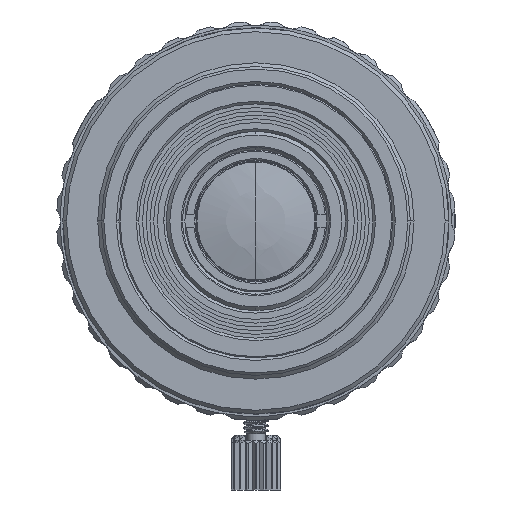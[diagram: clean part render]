
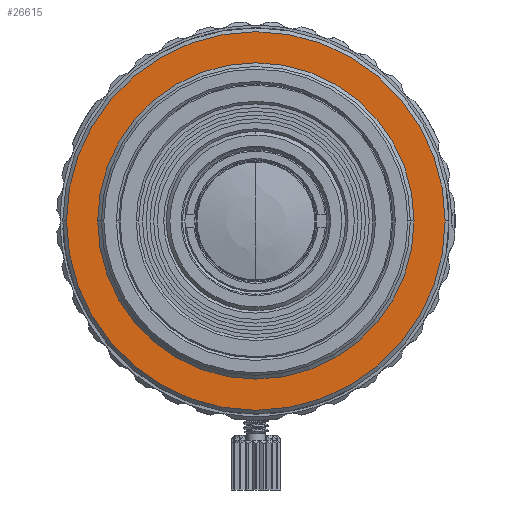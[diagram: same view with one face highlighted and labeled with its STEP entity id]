
A CAD part, front view. The second image highlights one B-rep face of the part: STEP entity #26615.
In plain terms, the highlighted planar face has unit normal (0, -1, 0).
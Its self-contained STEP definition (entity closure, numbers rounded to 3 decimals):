
#25850=CARTESIAN_POINT('',(0.,4.,0.));
#25851=DIRECTION('',(0.,1.,0.));
#25852=DIRECTION('',(-1.,0.,0.));
#25853=AXIS2_PLACEMENT_3D('',#25850,#25851,#25852);
#25859=CARTESIAN_POINT('',(0.,4.,0.));
#25860=DIRECTION('',(0.,-1.,0.));
#25861=DIRECTION('',(-1.,0.,0.));
#25862=AXIS2_PLACEMENT_3D('',#25859,#25860,#25861);
#25864=CARTESIAN_POINT('',(0.,4.,0.));
#25865=DIRECTION('',(0.,-1.,0.));
#25866=DIRECTION('',(-1.,0.,0.));
#25867=AXIS2_PLACEMENT_3D('',#25864,#25865,#25866);
#25869=CARTESIAN_POINT('',(0.,4.,0.));
#25870=DIRECTION('',(0.,1.,0.));
#25871=DIRECTION('',(-1.,0.,0.));
#25872=AXIS2_PLACEMENT_3D('',#25869,#25870,#25871);
#25919=CARTESIAN_POINT('',(-15.2,4.,0.));
#25921=VERTEX_POINT('',#25919);
#25922=CARTESIAN_POINT('',(-12.2,4.,0.));
#25924=VERTEX_POINT('',#25922);
#25947=CARTESIAN_POINT('',(15.2,4.,0.));
#25949=VERTEX_POINT('',#25947);
#25950=CARTESIAN_POINT('',(12.2,4.,0.));
#25952=VERTEX_POINT('',#25950);
#26602=CARTESIAN_POINT('',(0.,4.,0.));
#26603=DIRECTION('',(0.,-1.,0.));
#26604=DIRECTION('',(-1.,0.,0.));
#26605=AXIS2_PLACEMENT_3D('',#26602,#26603,#26604);
#26606=PLANE('',#26605);
#26607=ORIENTED_EDGE('',*,*,#26031,.F.);
#26608=ORIENTED_EDGE('',*,*,#26049,.T.);
#26609=EDGE_LOOP('',(#26607,#26608));
#26610=FACE_OUTER_BOUND('',#26609,.F.);
#26611=ORIENTED_EDGE('',*,*,#26581,.F.);
#26612=ORIENTED_EDGE('',*,*,#26597,.T.);
#26613=EDGE_LOOP('',(#26611,#26612));
#26614=FACE_BOUND('',#26613,.F.);
#26615=ADVANCED_FACE('',(#26610,#26614),#26606,.T.);
#25854=CIRCLE('',#25853,12.2);
#25863=CIRCLE('',#25862,12.2);
#25868=CIRCLE('',#25867,15.2);
#25873=CIRCLE('',#25872,15.2);
#26031=EDGE_CURVE('',#25921,#25949,#25868,.T.);
#26049=EDGE_CURVE('',#25921,#25949,#25873,.T.);
#26581=EDGE_CURVE('',#25924,#25952,#25854,.T.);
#26597=EDGE_CURVE('',#25924,#25952,#25863,.T.);
